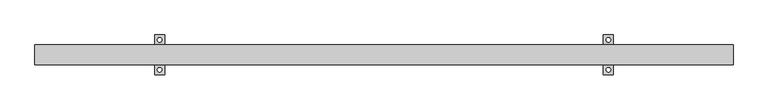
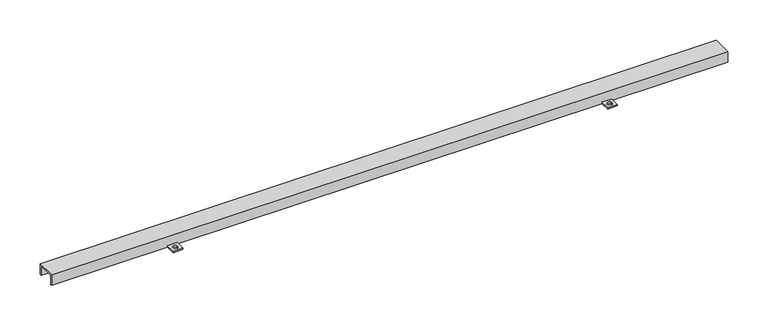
"""IFC4 building model written with IfcOpenShell, lengths in millimetres: proxy geometry, КНС_ЗащитнаяКрышкаПроводника_DKC : NA1100_Горячеоцинкованная сталь."""

from ifc_helpers import new_model, si_unit, point, frame, frame_2d, origin, origin_with_axes, place, context, project, spatial, polyline, circle_curve, trimmed, segment, composite_curve, outline, extrude, source, transform, mapped, element, save


def security_devices_a46f9e51(model_context):
    return source(origin(), model_context, "Body", "SweptSolid", [
        extrude(outline(polyline([(440.0, -20.0), (460.0, -20.0), (460.0, -40.0), (440.0, -40.0), (440.0, -20.0)]), holes=[composite_curve([segment(trimmed(circle_curve(frame_2d((450.0, -30.0)), 4.5), [point((454.5, -30.0))], [point((445.5, -30.0))], True, "CARTESIAN"), True, "CONTINUOUS"), segment(trimmed(circle_curve(frame_2d((450.0, -30.0)), 4.5), [point((445.5, -30.0))], [point((454.5, -30.0))], True, "CARTESIAN"), True, "CONTINUOUS")], self_intersect=False)]), origin_with_axes(), (0.0, 0.0, 1.0), 3.0),
        extrude(outline(polyline([(440.0, 20.0), (440.0, 40.0), (460.0, 40.0), (460.0, 20.0), (440.0, 20.0)]), holes=[composite_curve([segment(trimmed(circle_curve(frame_2d((450.0, 30.0)), 4.5), [point((454.5, 30.0))], [point((445.5, 30.0))], True, "CARTESIAN"), True, "CONTINUOUS"), segment(trimmed(circle_curve(frame_2d((450.0, 30.0)), 4.5), [point((445.5, 30.0))], [point((454.5, 30.0))], True, "CARTESIAN"), True, "CONTINUOUS")], self_intersect=False)]), origin_with_axes(), (0.0, 0.0, 1.0), 3.0),
        extrude(outline(polyline([(-440.0, -20.0), (-440.0, -40.0), (-460.0, -40.0), (-460.0, -20.0), (-440.0, -20.0)]), holes=[composite_curve([segment(trimmed(circle_curve(frame_2d((-450.0, -30.0)), 4.5), [point((-454.5, -30.0))], [point((-445.5, -30.0))], True, "CARTESIAN"), True, "CONTINUOUS"), segment(trimmed(circle_curve(frame_2d((-450.0, -30.0)), 4.5), [point((-445.5, -30.0))], [point((-454.5, -30.0))], True, "CARTESIAN"), True, "CONTINUOUS")], self_intersect=False)]), origin_with_axes(), (0.0, 0.0, 1.0), 3.0),
        extrude(outline(polyline([(-440.0, 20.0), (-460.0, 20.0), (-460.0, 40.0), (-440.0, 40.0), (-440.0, 20.0)]), holes=[composite_curve([segment(trimmed(circle_curve(frame_2d((-450.0, 30.0)), 4.5), [point((-454.5, 30.0))], [point((-445.5, 30.0))], True, "CARTESIAN"), True, "CONTINUOUS"), segment(trimmed(circle_curve(frame_2d((-450.0, 30.0)), 4.5), [point((-445.5, 30.0))], [point((-454.5, 30.0))], True, "CARTESIAN"), True, "CONTINUOUS")], self_intersect=False)]), origin_with_axes(), (0.0, 0.0, 1.0), 3.0),
        extrude(outline(polyline([(20.0, 23.0), (20.0, 0.0), (17.0, 0.0), (17.0, 20.0), (-17.0, 20.0), (-17.0, 0.0), (-20.0, 0.0), (-20.0, 23.0), (20.0, 23.0)])), frame((-700.0, 0.0, 0.0), z_axis=(1.0, 0.0, 0.0), x_axis=(0.0, 1.0, 0.0)), (0.0, 0.0, 1.0), 1400.0),
    ])


if __name__ == "__main__":
    model = new_model("IFC4")
    model_context = context("Model", 3, world=origin())
    ifc_project = project(units=[si_unit("LENGTHUNIT", "METRE", prefix="MILLI")], contexts=[model_context])
    site = spatial("IfcSite", under=ifc_project)
    building = spatial("IfcBuilding", under=site)
    placement = place(None, origin())
    security_devices_shape = security_devices_a46f9e51(model_context)
    element("IfcBuildingElementProxy", 1, Name="КНС_ЗащитнаяКрышкаПроводника_DKC : NA1100_Горячеоцинкованная сталь", ObjectType="КНС_ЗащитнаяКрышкаПроводника_DKC : NA1100_Горячеоцинкованная сталь", at=placement, inside=building, context=model_context, shape_type="MappedRepresentation", body=[
        mapped(security_devices_shape, transform((0.0, 0.0, 0.0), x_axis=(1.0, 0.0, 0.0), y_axis=(0.0, 1.0, 0.0), z_axis=(0.0, 0.0, 1.0))),
    ])
    save(model, "model.ifc")
